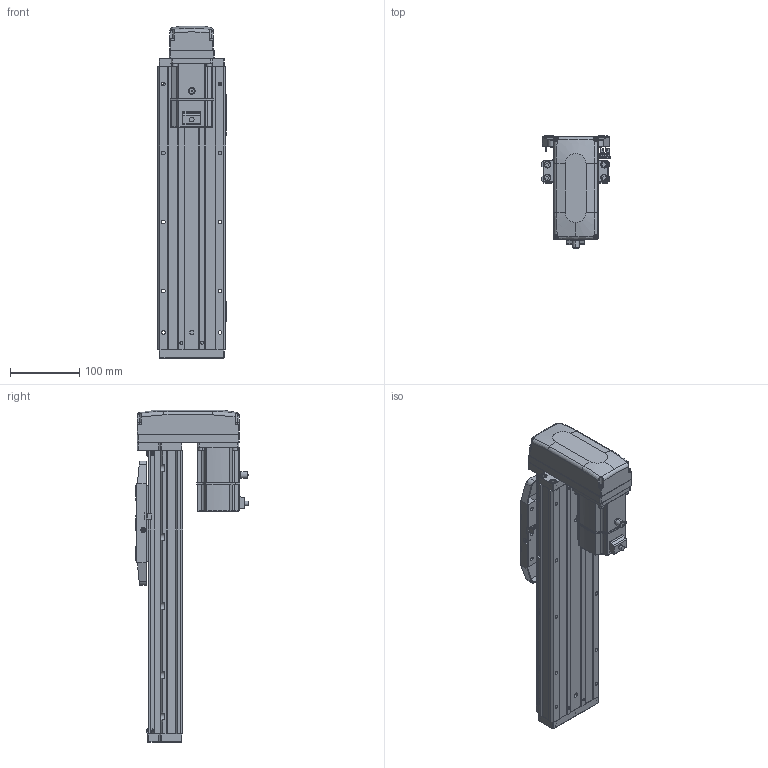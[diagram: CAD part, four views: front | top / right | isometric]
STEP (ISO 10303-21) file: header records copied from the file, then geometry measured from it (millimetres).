
FILE_DESCRIPTION (( 'STEP AP203' ), '1' );
FILE_NAME ('CTHA100-200-BM-M20-C4L.step', '2022-07-06T09:03:16', ( '微软用户' ), ( '微软中国' ), 'SwSTEP 2.0', 'SolidWorks 2020', '' );
FILE_SCHEMA (( 'CONFIG_CONTROL_DESIGN' ));
Length unit declared in the file: millimetre
Products named in the file (19): KTHA100-001_410; GBT77-2000 M3×3; CTHA86-030; KTHA100-004; GBT 70.1-M3℅6; GBT 70.3-M3℅6; KTHA100-005; GBT70.1 M5℅16; CTHA86-015-1_CTHA86-015-2; GB¨uT 70.2-M3¡Á5_M3¡Á6; CTHA60-016; CTHA86-033; EE_SX911P_R; _X2_4E0983F1_X0_200W_1; CTHA100-200-BM-M20-C4L; CTHA60-017; CTHA100-002; CTHA60-021; CTHA100-031
Assembly tree (64 placements, depth 2):
  CTHA100-200-BM-M20-C4L
    KTHA100-001_410
    KTHA100-004
    KTHA100-005
    GB¨uT 70.2-M3¡Á5_M3¡Á6  x10
    EE_SX911P_R  x3
    CTHA60-017  x3
    CTHA60-021  x2
    GBT77-2000 M3×3  x6
    GBT 70.1-M3℅6  x10
    GBT70.1 M5℅16  x14
    CTHA60-016  x2
    _X2_4E0983F1_X0_200W_1
    CTHA100-002
    CTHA100-031
    CTHA86-030  x2
    GBT 70.3-M3℅6  x4
    CTHA86-015-1_CTHA86-015-2
    CTHA86-033
Bounding box: 98.82 x 163.2 x 481 mm (x, y, z)
Volume: 2414631.3 mm3; surface area: 432889 mm2
Topology: 66 solids, 66 shells, 2609 faces, 6247 edges, 3868 vertices
Faces by surface type: plane 1356, cylinder 683, cone 347, torus 124, bspline 75, sphere 24
Entity records: 44054 total; most frequent: CARTESIAN_POINT 8699, DIRECTION 6764, ORIENTED_EDGE 6610, EDGE_CURVE 3305, AXIS2_PLACEMENT_3D 2305, VECTOR 2154, LINE 2154, VERTEX_POINT 2088
